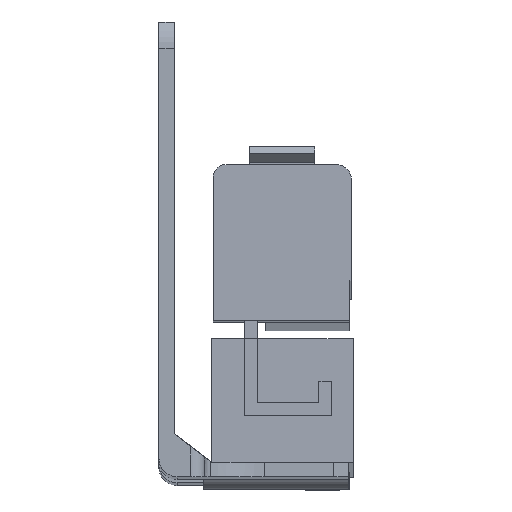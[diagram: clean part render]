
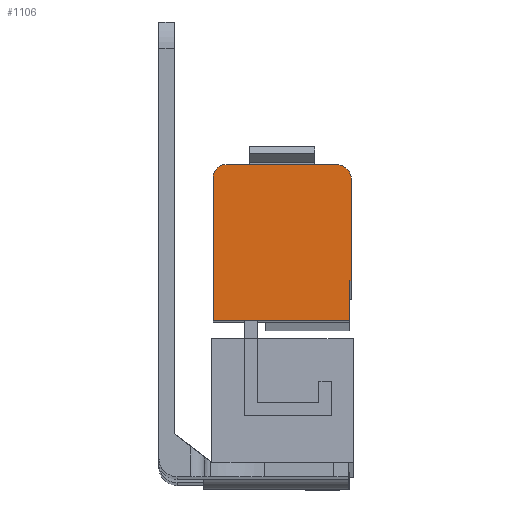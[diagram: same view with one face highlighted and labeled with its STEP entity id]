
A CAD part, front view. The second image highlights one B-rep face of the part: STEP entity #1106.
In plain terms, the highlighted planar face has unit normal (0, -1, 0.005).
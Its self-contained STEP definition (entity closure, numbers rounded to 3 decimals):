
#1 = ORIENTED_EDGE ( 'NONE', *, *, #2500, .T. ) ;
#4 = ORIENTED_EDGE ( 'NONE', *, *, #2495, .T. ) ;
#5 = ORIENTED_EDGE ( 'NONE', *, *, #2518, .T. ) ;
#6 = ORIENTED_EDGE ( 'NONE', *, *, #2493, .T. ) ;
#8 = ORIENTED_EDGE ( 'NONE', *, *, #2529, .T. ) ;
#13 = ORIENTED_EDGE ( 'NONE', *, *, #2497, .T. ) ;
#15 = ORIENTED_EDGE ( 'NONE', *, *, #2523, .T. ) ;
#17 = ORIENTED_EDGE ( 'NONE', *, *, #2511, .T. ) ;
#24 = DIRECTION ( 'NONE',  ( 0., -1., 0.005 ) ) ;
#26 = CARTESIAN_POINT ( 'NONE',  ( 24.45, -21.685, -6.728 ) ) ;
#27 = DIRECTION ( 'NONE',  ( 0., 0.005, 1. ) ) ;
#56 = DIRECTION ( 'NONE',  ( 0., 0.005, 1. ) ) ;
#73 = CARTESIAN_POINT ( 'NONE',  ( 26.25, -21.787, -26.178 ) ) ;
#835 = EDGE_LOOP ( 'NONE', ( #17, #15, #13, #5, #1, #4, #8, #6 ) ) ;
#964 = DIRECTION ( 'NONE',  ( 0., -0.005, -1. ) ) ;
#1007 = CARTESIAN_POINT ( 'NONE',  ( 9.25, -21.683, -6.428 ) ) ;
#1011 = DIRECTION ( 'NONE',  ( 0., -0.005, -1. ) ) ;
#1016 = DIRECTION ( 'NONE',  ( 0., -1., 0.005 ) ) ;
#1027 = DIRECTION ( 'NONE',  ( 0., 0.005, 1. ) ) ;
#1034 = CARTESIAN_POINT ( 'NONE',  ( 26.5, -21.685, -6.728 ) ) ;
#1035 = CARTESIAN_POINT ( 'NONE',  ( 7.5, -21.683, -6.428 ) ) ;
#1048 = DIRECTION ( 'NONE',  ( 1., 0., 0. ) ) ;
#1049 = CARTESIAN_POINT ( 'NONE',  ( 26.25, -21.787, -26.178 ) ) ;
#1050 = DIRECTION ( 'NONE',  ( -1., 0., 0. ) ) ;
#1051 = CARTESIAN_POINT ( 'NONE',  ( 9.25, -21.674, -4.678 ) ) ;
#1074 = DIRECTION ( 'NONE',  ( 1., 0., 0. ) ) ;
#1077 = CARTESIAN_POINT ( 'NONE',  ( 7.5, -21.758, -20.678 ) ) ;
#1106 = ADVANCED_FACE ( 'NONE', ( #3218 ), #1677, .T. ) ;
#1289 = VERTEX_POINT ( 'NONE', #2112 ) ;
#1297 = VERTEX_POINT ( 'NONE', #2120 ) ;
#1300 = VERTEX_POINT ( 'NONE', #2123 ) ;
#1306 = VERTEX_POINT ( 'NONE', #2129 ) ;
#1307 = VERTEX_POINT ( 'NONE', #2130 ) ;
#1312 = VERTEX_POINT ( 'NONE', #2135 ) ;
#1329 = VERTEX_POINT ( 'NONE', #2152 ) ;
#1331 = VERTEX_POINT ( 'NONE', #2154 ) ;
#1677 = PLANE ( 'NONE',  #2852 ) ;
#1678 = CARTESIAN_POINT ( 'NONE',  ( 9.25, -21.683, -6.428 ) ) ;
#1679 = DIRECTION ( 'NONE',  ( 0., -1., 0.005 ) ) ;
#1680 = DIRECTION ( 'NONE',  ( 0., -0.005, -1. ) ) ;
#2112 = CARTESIAN_POINT ( 'NONE',  ( 26.25, -21.758, -20.678 ) ) ;
#2120 = CARTESIAN_POINT ( 'NONE',  ( 9.25, -21.674, -4.678 ) ) ;
#2123 = CARTESIAN_POINT ( 'NONE',  ( 7.5, -21.683, -6.428 ) ) ;
#2129 = CARTESIAN_POINT ( 'NONE',  ( 26.5, -21.685, -6.728 ) ) ;
#2130 = CARTESIAN_POINT ( 'NONE',  ( 26.25, -21.787, -26.178 ) ) ;
#2135 = CARTESIAN_POINT ( 'NONE',  ( 24.45, -21.674, -4.678 ) ) ;
#2152 = CARTESIAN_POINT ( 'NONE',  ( 7.5, -21.787, -26.178 ) ) ;
#2154 = CARTESIAN_POINT ( 'NONE',  ( 26.5, -21.758, -20.678 ) ) ;
#2493 = EDGE_CURVE ( 'NONE', #1289, #1331, #3531, .T. ) ;
#2495 = EDGE_CURVE ( 'NONE', #1329, #1307, #3535, .T. ) ;
#2497 = EDGE_CURVE ( 'NONE', #1312, #1297, #3539, .T. ) ;
#2500 = EDGE_CURVE ( 'NONE', #1300, #1329, #3545, .T. ) ;
#2511 = EDGE_CURVE ( 'NONE', #1331, #1306, #3567, .T. ) ;
#2518 = EDGE_CURVE ( 'NONE', #1297, #1300, #3582, .T. ) ;
#2523 = EDGE_CURVE ( 'NONE', #1306, #1312, #3590, .T. ) ;
#2529 = EDGE_CURVE ( 'NONE', #1307, #1289, #3600, .T. ) ;
#2852 = AXIS2_PLACEMENT_3D ( 'NONE', #1678, #1679, #1680 ) ;
#2983 = AXIS2_PLACEMENT_3D ( 'NONE', #1007, #1016, #964 ) ;
#2985 = AXIS2_PLACEMENT_3D ( 'NONE', #26, #24, #27 ) ;
#3218 = FACE_OUTER_BOUND ( 'NONE', #835, .T. ) ;
#3531 = LINE ( 'NONE', #1077, #3532 ) ;
#3532 = VECTOR ( 'NONE', #1074, 1000. ) ;
#3535 = LINE ( 'NONE', #1049, #3536 ) ;
#3536 = VECTOR ( 'NONE', #1048, 1000. ) ;
#3539 = LINE ( 'NONE', #1051, #3540 ) ;
#3540 = VECTOR ( 'NONE', #1050, 1000. ) ;
#3545 = LINE ( 'NONE', #1035, #3546 ) ;
#3546 = VECTOR ( 'NONE', #1011, 1000. ) ;
#3567 = LINE ( 'NONE', #1034, #3568 ) ;
#3568 = VECTOR ( 'NONE', #1027, 1000. ) ;
#3582 = CIRCLE ( 'NONE', #2983, 1.75 ) ;
#3590 = CIRCLE ( 'NONE', #2985, 2.05 ) ;
#3600 = LINE ( 'NONE', #73, #3601 ) ;
#3601 = VECTOR ( 'NONE', #56, 1000. ) ;
